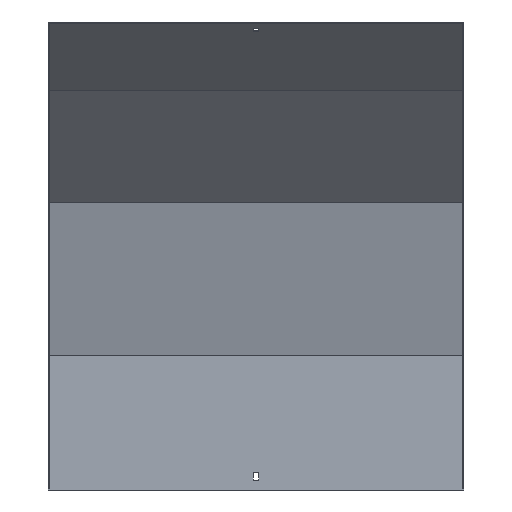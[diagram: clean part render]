
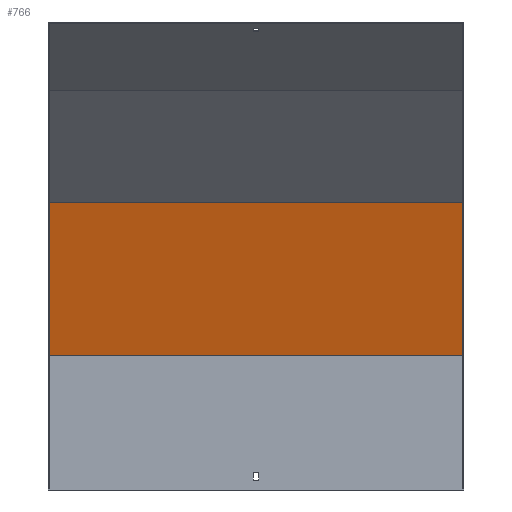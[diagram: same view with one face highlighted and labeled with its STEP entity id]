
A CAD part, front view. The second image highlights one B-rep face of the part: STEP entity #766.
In plain terms, the highlighted planar face has unit normal (0, -0.966, -0.259).
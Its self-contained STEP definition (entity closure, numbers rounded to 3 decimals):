
#7 = DIRECTION ( 'NONE',  ( 0., -0.259, 0.966 ) ) ;
#49 = ORIENTED_EDGE ( 'NONE', *, *, #894, .F. ) ;
#50 = DIRECTION ( 'NONE',  ( 0., 0.259, -0.966 ) ) ;
#100 = ORIENTED_EDGE ( 'NONE', *, *, #312, .F. ) ;
#123 = VECTOR ( 'NONE', #7, 1000. ) ;
#124 = CARTESIAN_POINT ( 'NONE',  ( 251.5, 17.87, 164.788 ) ) ;
#149 = AXIS2_PLACEMENT_3D ( 'NONE', #124, #359, #50 ) ;
#180 = VERTEX_POINT ( 'NONE', #358 ) ;
#213 = CARTESIAN_POINT ( 'NONE',  ( -250., -31.295, 348.273 ) ) ;
#220 = VERTEX_POINT ( 'NONE', #213 ) ;
#224 = VECTOR ( 'NONE', #337, 1000. ) ;
#232 = DIRECTION ( 'NONE',  ( 0., -0.259, 0.966 ) ) ;
#312 = EDGE_CURVE ( 'NONE', #180, #476, #963, .T. ) ;
#337 = DIRECTION ( 'NONE',  ( -1., 0., 0. ) ) ;
#345 = EDGE_LOOP ( 'NONE', ( #49, #100, #811, #777 ) ) ;
#350 = FACE_OUTER_BOUND ( 'NONE', #345, .T. ) ;
#358 = CARTESIAN_POINT ( 'NONE',  ( 250., 18.5, 162.436 ) ) ;
#359 = DIRECTION ( 'NONE',  ( 0., -0.966, -0.259 ) ) ;
#385 = CARTESIAN_POINT ( 'NONE',  ( 250., 57.87, 15.506 ) ) ;
#417 = CARTESIAN_POINT ( 'NONE',  ( 250., -31.295, 348.273 ) ) ;
#431 = VECTOR ( 'NONE', #677, 1000. ) ;
#447 = CARTESIAN_POINT ( 'NONE',  ( -250., 57.87, 15.506 ) ) ;
#474 = VECTOR ( 'NONE', #232, 1000. ) ;
#476 = VERTEX_POINT ( 'NONE', #690 ) ;
#505 = VERTEX_POINT ( 'NONE', #417 ) ;
#594 = LINE ( 'NONE', #742, #431 ) ;
#609 = LINE ( 'NONE', #447, #474 ) ;
#610 = EDGE_CURVE ( 'NONE', #505, #220, #594, .T. ) ;
#676 = EDGE_CURVE ( 'NONE', #180, #505, #834, .T. ) ;
#677 = DIRECTION ( 'NONE',  ( -1., 0., 0. ) ) ;
#690 = CARTESIAN_POINT ( 'NONE',  ( -250., 18.5, 162.436 ) ) ;
#742 = CARTESIAN_POINT ( 'NONE',  ( 251.5, -31.295, 348.273 ) ) ;
#766 = ADVANCED_FACE ( 'NONE', ( #350 ), #815, .T. ) ;
#777 = ORIENTED_EDGE ( 'NONE', *, *, #610, .T. ) ;
#784 = CARTESIAN_POINT ( 'NONE',  ( 251.5, 18.5, 162.436 ) ) ;
#811 = ORIENTED_EDGE ( 'NONE', *, *, #676, .T. ) ;
#815 = PLANE ( 'NONE',  #149 ) ;
#834 = LINE ( 'NONE', #385, #123 ) ;
#894 = EDGE_CURVE ( 'NONE', #476, #220, #609, .T. ) ;
#963 = LINE ( 'NONE', #784, #224 ) ;
